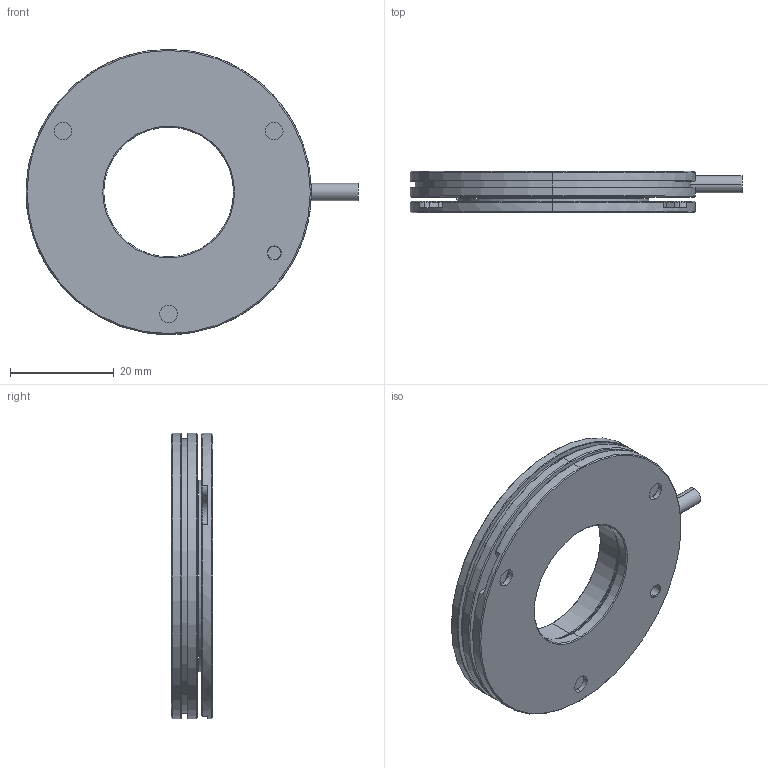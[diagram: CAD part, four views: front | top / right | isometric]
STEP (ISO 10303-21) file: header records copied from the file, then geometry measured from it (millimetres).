
FILE_DESCRIPTION (( 'STEP AP214' ), '1' );
FILE_NAME ('GMI-ROT-055-B11-K0x-ST_rev01.STEP', '2023-11-08T08:41:57', ( '' ), ( '' ), 'SwSTEP 2.0', 'SolidWorks 2021', '' );
FILE_SCHEMA (( 'AUTOMOTIVE_DESIGN' ));
Length unit declared in the file: millimetre
Products named in the file (1): GMI-ROT-055-B11-K0x-ST_rev01
Bounding box: 64 x 8 x 55 mm (x, y, z)
Volume: 12602.1 mm3; surface area: 14692.3 mm2
Topology: 6 solids, 6 shells, 220 faces, 526 edges, 331 vertices
Faces by surface type: cylinder 116, cone 54, plane 50
Entity records: 9040 total; most frequent: DIRECTION 1251, CARTESIAN_POINT 1142, ORIENTED_EDGE 1052, EDGE_CURVE 526, AXIS2_PLACEMENT_3D 516, VERTEX_POINT 331, CIRCLE 295, EDGE_LOOP 257
